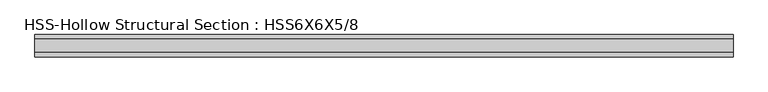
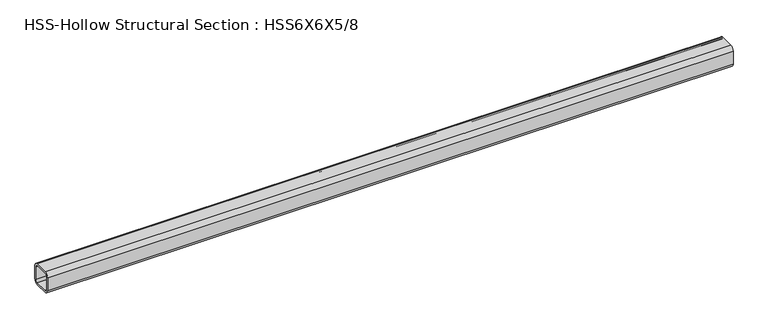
"""IFC4 building model written with IfcOpenShell, lengths in millimetres: beam geometry, HSS-Hollow Structural Section : HSS6X6X5/8."""

import ifcopenshell
import ifcopenshell.guid

model = None  # the IFC model being written
_history = None  # IfcOwnerHistory: only IFC2X3 demands one
_inside = {}  # id of a spatial element -> (the spatial element, [elements in it])
_under = {}  # id of a project, library or spatial element -> (it, [spatial elements below it])
_declared = {}  # id of a project -> (the project, [libraries it declares])
_typed = {}  # id of a type object -> (the type object, [elements of that type])
_made_of = {}  # id of a material, layer set ... -> (it, [elements and type objects made of it])


def new_model(schema):
    """Start an empty IFC model of exactly this schema.

    Asked for "IFC4X3", IfcOpenShell would pick the latest addendum, in which some entities
    have other attributes; the version numbers below select the first issue.
    IFC2X3 requires an IfcOwnerHistory on every rooted entity: one is made here for all.
    """
    global model, _history
    if schema == "IFC4X3":
        model = ifcopenshell.file(schema_version=(4, 3, 0, 0))
    else:
        model = ifcopenshell.file(schema=schema)
    _inside.clear()
    _under.clear()
    _declared.clear()
    _typed.clear()
    _made_of.clear()
    _history = None
    if model.schema == "IFC2X3":
        org = make("IfcOrganization", Name="unknown")
        user = make(
            "IfcPersonAndOrganization",
            ThePerson=make("IfcPerson", FamilyName="unknown"),
            TheOrganization=org,
        )
        app = make(
            "IfcApplication",
            ApplicationDeveloper=org,
            Version="unknown",
            ApplicationFullName="unknown",
            ApplicationIdentifier="unknown",
        )
        _history = make(
            "IfcOwnerHistory",
            OwningUser=user,
            OwningApplication=app,
            ChangeAction="ADDED",
            CreationDate=0,
        )
    return model


def make(cls, **values):
    """One entity of the class cls with the attributes given. An attribute that is None is left unset."""
    return model.create_entity(
        cls, **{name: value for name, value in values.items() if value is not None}
    )


def rooted(cls, **values):
    """An entity with a GlobalId (a new one), such as an element, a storey or a relation."""
    return make(cls, GlobalId=ifcopenshell.guid.new(), OwnerHistory=_history, **values)


def si_unit(unit_type, name, prefix=None):
    """IfcSIUnit, for example si_unit("LENGTHUNIT", "METRE", prefix="MILLI")."""
    return make("IfcSIUnit", UnitType=unit_type, Prefix=prefix, Name=name)


def assignment(units):
    """IfcUnitAssignment: the units of a project."""
    return None if units is None else make("IfcUnitAssignment", Units=units)


def point(xyz):
    """IfcCartesianPoint."""
    return None if xyz is None else make("IfcCartesianPoint", Coordinates=xyz)


def direction(xyz):
    """IfcDirection."""
    return None if xyz is None else make("IfcDirection", DirectionRatios=xyz)


def frame(location, z_axis=None, x_axis=None):
    """IfcAxis2Placement3D, a coordinate frame: its origin and axes. An axis left out is left unset."""
    return make(
        "IfcAxis2Placement3D",
        Location=point(location),
        Axis=direction(z_axis),
        RefDirection=direction(x_axis),
    )


def frame_2d(location, x_axis=None):
    """IfcAxis2Placement2D, a coordinate frame in the plane: its origin and x axis."""
    return make(
        "IfcAxis2Placement2D", Location=point(location), RefDirection=direction(x_axis)
    )


def origin():
    """The frame at (0, 0, 0) with its axes left unset."""
    return frame((0.0, 0.0, 0.0))


def place(relative_to, where):
    """IfcLocalPlacement: puts the frame where relative to a parent placement (None: the world)."""
    return make(
        "IfcLocalPlacement", PlacementRelTo=relative_to, RelativePlacement=where
    )


def context(
    kind, dimensions, precision=None, world=None, true_north=None, identifier=None
):
    """IfcGeometricRepresentationContext, for example the 3D "Model" context."""
    return make(
        "IfcGeometricRepresentationContext",
        ContextIdentifier=identifier,
        ContextType=kind,
        CoordinateSpaceDimension=dimensions,
        Precision=precision,
        WorldCoordinateSystem=world,
        TrueNorth=true_north,
    )


def project(units=None, contexts=None):
    """IfcProject with its units and contexts."""
    return rooted(
        "IfcProject",
        Name="project",
        RepresentationContexts=contexts,
        UnitsInContext=assignment(units),
    )


def spatial(cls, under=None, at=None, **own):
    """A site, building, storey or space (cls), placed at a placement, below another one or the project."""
    s = rooted(cls, ObjectPlacement=at, **own)
    if under is not None:
        _under.setdefault(under.id(), (under, []))[1].append(s)
    return s


def polyline(points):
    """IfcPolyline through the points."""
    return make("IfcPolyline", Points=[point(p) for p in points])


def circle_curve(where, radius):
    """IfcCircle in the frame where."""
    return make("IfcCircle", Position=where, Radius=radius)


def trimmed(basis, trim1, trim2, sense, master):
    """IfcTrimmedCurve: the piece of a basis curve between two trims."""
    return make(
        "IfcTrimmedCurve",
        BasisCurve=basis,
        Trim1=trim1,
        Trim2=trim2,
        SenseAgreement=sense,
        MasterRepresentation=master,
    )


def segment(curve, same_sense, transition):
    """IfcCompositeCurveSegment."""
    return make(
        "IfcCompositeCurveSegment",
        Transition=transition,
        SameSense=same_sense,
        ParentCurve=curve,
    )


def composite_curve(segments, self_intersect=None):
    """IfcCompositeCurve: segments joined end to end."""
    return make("IfcCompositeCurve", Segments=segments, SelfIntersect=self_intersect)


def outline(outer, holes=None, kind="AREA"):
    """IfcArbitraryClosedProfileDef: a profile drawn as a closed curve; with holes, ...WithVoids."""
    if holes is None:
        return make("IfcArbitraryClosedProfileDef", ProfileType=kind, OuterCurve=outer)
    return make(
        "IfcArbitraryProfileDefWithVoids",
        ProfileType=kind,
        OuterCurve=outer,
        InnerCurves=holes,
    )


def extrude(swept, where, along, depth):
    """IfcExtrudedAreaSolid: the profile swept, set in the frame where, extruded along a direction by depth."""
    return make(
        "IfcExtrudedAreaSolid",
        SweptArea=swept,
        Position=where,
        ExtrudedDirection=direction(along),
        Depth=depth,
    )


def shape(context_of_items, identifier, shape_type, items):
    """IfcShapeRepresentation: the items that make up one representation, for example the "Body"."""
    return make(
        "IfcShapeRepresentation",
        ContextOfItems=context_of_items,
        RepresentationIdentifier=identifier,
        RepresentationType=shape_type,
        Items=items,
    )


def source(mapping_origin, context_of_items, identifier, shape_type, items):
    """IfcRepresentationMap: a shape defined once, which mapped items show again and again."""
    return make(
        "IfcRepresentationMap",
        MappingOrigin=mapping_origin,
        MappedRepresentation=shape(context_of_items, identifier, shape_type, items),
    )


def transform(
    local_origin,
    x_axis=None,
    y_axis=None,
    z_axis=None,
    scale=None,
    scale2=None,
    scale3=None,
    uniform=True,
):
    """IfcCartesianTransformationOperator3D, or its non-uniform kind. x_axis, y_axis, z_axis: its Axis1, 2, 3."""
    if uniform:
        return make(
            "IfcCartesianTransformationOperator3D",
            Axis1=direction(x_axis),
            Axis2=direction(y_axis),
            LocalOrigin=point(local_origin),
            Scale=scale,
            Axis3=direction(z_axis),
        )
    return make(
        "IfcCartesianTransformationOperator3DnonUniform",
        Axis1=direction(x_axis),
        Axis2=direction(y_axis),
        LocalOrigin=point(local_origin),
        Scale=scale,
        Axis3=direction(z_axis),
        Scale2=scale2,
        Scale3=scale3,
    )


def mapped(mapping_source, mapping_target):
    """IfcMappedItem: shows the shape of a source again, moved by a transform."""
    return make(
        "IfcMappedItem", MappingSource=mapping_source, MappingTarget=mapping_target
    )


def made_of(thing, what):
    """Note that an element or type object is made of a material, layer set ...; save() writes the relation."""
    if what is not None:
        _made_of.setdefault(what.id(), (what, []))[1].append(thing)
    return thing


def element(
    cls,
    number,
    at=None,
    inside=None,
    cuts=None,
    type_object=None,
    material=None,
    context=None,
    identifier="Body",
    shape_type=None,
    held_by="IfcProductDefinitionShape",
    body=None,
    shapes=None,
    **own,
):
    """One element of the class cls, such as IfcWall. Its Tag is "e" and its number.

    at: its placement. inside: the storey or other place that contains it. cuts: it is an
    opening in that element (IfcRelVoidsElement). A single representation is given by context,
    identifier, shape_type and body (its items); several are given by shapes. held_by: the class
    of the entity that holds the representations. save() writes the other relations.
    """
    e = rooted(cls, Tag="e%d" % number, ObjectPlacement=at, **own)
    if body is not None:
        shapes = [shape(context, identifier, shape_type, body)]
    if shapes is not None:
        e.Representation = make(held_by, Representations=shapes)
    if inside is not None:
        _inside.setdefault(inside.id(), (inside, []))[1].append(e)
    if cuts is not None:
        rooted(
            "IfcRelVoidsElement", RelatingBuildingElement=cuts, RelatedOpeningElement=e
        )
    if type_object is not None:
        _typed.setdefault(type_object.id(), (type_object, []))[1].append(e)
    return made_of(e, material)


def aggregate(whole, parts):
    """IfcRelAggregates: a whole, such as a stair, and the parts it consists of."""
    return rooted("IfcRelAggregates", RelatingObject=whole, RelatedObjects=parts)


def save(model, path):
    """Write the relations noted so far, then the file.

    IfcRelAggregates (storeys below a building ...), IfcRelContainedInSpatialStructure (elements
    in a storey), IfcRelDefinesByType, IfcRelAssociatesMaterial and IfcRelDeclares: one each for
    every whole, place, type object, material and project.
    """
    for whole, parts in _under.values():
        aggregate(whole, parts)
    for where, things in _inside.values():
        rooted(
            "IfcRelContainedInSpatialStructure",
            RelatedElements=things,
            RelatingStructure=where,
        )
    for kind, things in _typed.values():
        rooted("IfcRelDefinesByType", RelatedObjects=things, RelatingType=kind)
    for what, things in _made_of.values():
        rooted("IfcRelAssociatesMaterial", RelatedObjects=things, RelatingMaterial=what)
    for by, libraries in _declared.values():
        rooted("IfcRelDeclares", RelatingContext=by, RelatedDefinitions=libraries)
    model.write(path)


def hss_hollow_structural_section_hss6x6x5_8_8dfb8c6b(model_context):
    return source(origin(), model_context, "Body", "SweptSolid", [
        extrude(outline(composite_curve([segment(trimmed(circle_curve(frame_2d((-46.6852, 46.6852)), 29.5148), [point((-76.2, 46.6852))], [point((-46.6852, 76.2))], False, "CARTESIAN"), True, "CONTINUOUS"), segment(polyline([(-46.6852, 76.2), (46.6852, 76.2)]), True, "CONTINUOUS"), segment(trimmed(circle_curve(frame_2d((46.6852, 46.6852)), 29.5148), [point((46.6852, 76.2))], [point((76.2, 46.6852))], False, "CARTESIAN"), True, "CONTINUOUS"), segment(polyline([(76.2, 46.6852), (76.2, -46.6852)]), True, "CONTINUOUS"), segment(trimmed(circle_curve(frame_2d((46.6852, -46.6852)), 29.5148), [point((76.2, -46.6852))], [point((46.6852, -76.2))], False, "CARTESIAN"), True, "CONTINUOUS"), segment(polyline([(46.6852, -76.2), (-46.6852, -76.2)]), True, "CONTINUOUS"), segment(trimmed(circle_curve(frame_2d((-46.6852, -46.6852)), 29.5148), [point((-46.6852, -76.2))], [point((-76.2, -46.6852))], False, "CARTESIAN"), True, "CONTINUOUS"), segment(polyline([(-76.2, -46.6852), (-76.2, 46.6852)]), True, "CONTINUOUS")], self_intersect=False), holes=[composite_curve([segment(polyline([(46.6852, 61.4426), (-46.6852, 61.4426)]), True, "CONTINUOUS"), segment(trimmed(circle_curve(frame_2d((-46.6852, 46.6852)), 14.7574), [point((-46.6852, 61.4426))], [point((-61.4426, 46.6852))], True, "CARTESIAN"), True, "CONTINUOUS"), segment(polyline([(-61.4426, 46.6852), (-61.4426, -46.6852)]), True, "CONTINUOUS"), segment(trimmed(circle_curve(frame_2d((-46.6852, -46.6852)), 14.7574), [point((-61.4426, -46.6852))], [point((-46.6852, -61.4426))], True, "CARTESIAN"), True, "CONTINUOUS"), segment(polyline([(-46.6852, -61.4426), (46.6852, -61.4426)]), True, "CONTINUOUS"), segment(trimmed(circle_curve(frame_2d((46.6852, -46.6852)), 14.7574), [point((46.6852, -61.4426))], [point((61.4426, -46.6852))], True, "CARTESIAN"), True, "CONTINUOUS"), segment(polyline([(61.4426, -46.6852), (61.4426, 46.6852)]), True, "CONTINUOUS"), segment(trimmed(circle_curve(frame_2d((46.6852, 46.6852)), 14.7574), [point((61.4426, 46.6852))], [point((46.6852, 61.4426))], True, "CARTESIAN"), True, "CONTINUOUS")], self_intersect=False)]), frame((-2349.5, 0.0, 0.0), z_axis=(1.0, 0.0, 0.0), x_axis=(0.0, 1.0, 0.0)), (0.0, 0.0, 1.0), 4787.9),
    ])


if __name__ == "__main__":
    model = new_model("IFC4")
    model_context = context("Model", 3, world=origin())
    ifc_project = project(units=[si_unit("LENGTHUNIT", "METRE", prefix="MILLI")], contexts=[model_context])
    site = spatial("IfcSite", under=ifc_project)
    building = spatial("IfcBuilding", under=site)
    placement = place(None, origin())
    hss_hollow_structural_section_hss6x6x5_8_shape = hss_hollow_structural_section_hss6x6x5_8_8dfb8c6b(model_context)
    element("IfcBeam", 1, ObjectType="HSS-Hollow Structural Section : HSS6X6X5/8", at=placement, inside=building, context=model_context, shape_type="MappedRepresentation", body=[
        mapped(hss_hollow_structural_section_hss6x6x5_8_shape, transform((0.0, 0.0, 0.0), x_axis=(1.0, 0.0, 0.0), y_axis=(0.0, 1.0, 0.0), z_axis=(0.0, 0.0, 1.0))),
    ])
    save(model, "model.ifc")
